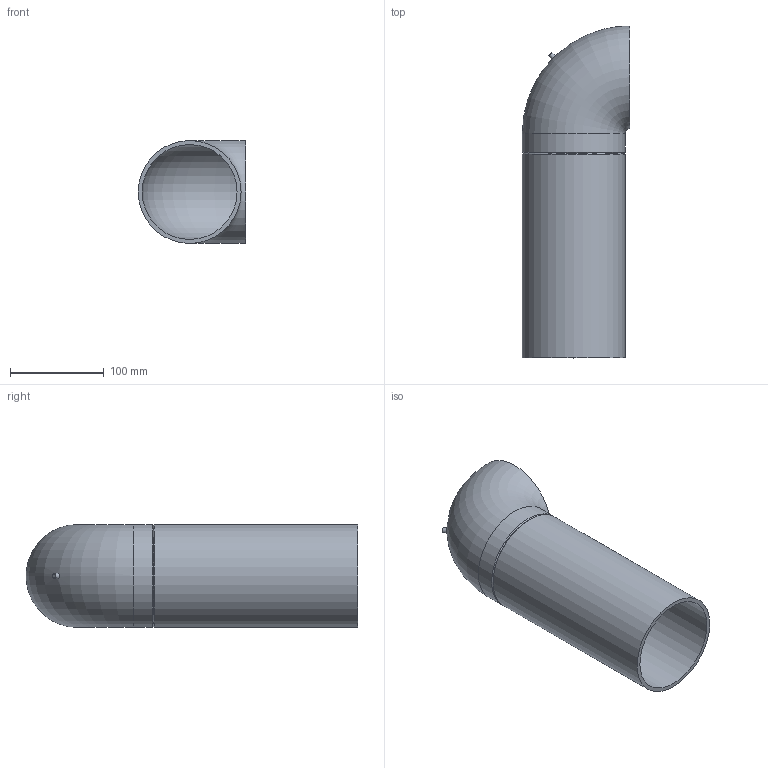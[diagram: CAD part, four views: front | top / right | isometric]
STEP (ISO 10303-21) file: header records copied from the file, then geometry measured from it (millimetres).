
FILE_DESCRIPTION(/* description */ (''),/* implementation_level */ '2;1');
FILE_NAME(/* name */ 'Z:\Geberit\Export\NewStep\367876.stp',/* time_stamp */ '2014-04-02T07:58:54+02:00',/* author */ ('bruh'),/* organization */ (''),/* preprocessor_version */ 'ST-DEVELOPER v15.2',/* originating_system */ 'Autodesk Inventor 2014',/* authorisation */ '');
FILE_SCHEMA (('AUTOMOTIVE_DESIGN { 1 0 10303 214 3 1 1 }'));
Length unit declared in the file: millimetre
Products named in the file (1): 367876
Bounding box: 115 x 355 x 110 mm (x, y, z)
Volume: 476963.8 mm3; surface area: 225216.8 mm2
Topology: 1 solids, 1 shells, 11 faces, 22 edges, 13 vertices
Faces by surface type: cone 3, plane 3, cylinder 3, torus 2
Full cylindrical faces by diameter (mm): 101.4 x1, 110 x2
Entity records: 298 total; most frequent: CARTESIAN_POINT 75, DIRECTION 44, EDGE_LOOP 22, ORIENTED_EDGE 22, AXIS2_PLACEMENT_3D 22, FACE_BOUND 13, STYLED_ITEM 12, VERTEX_POINT 11
